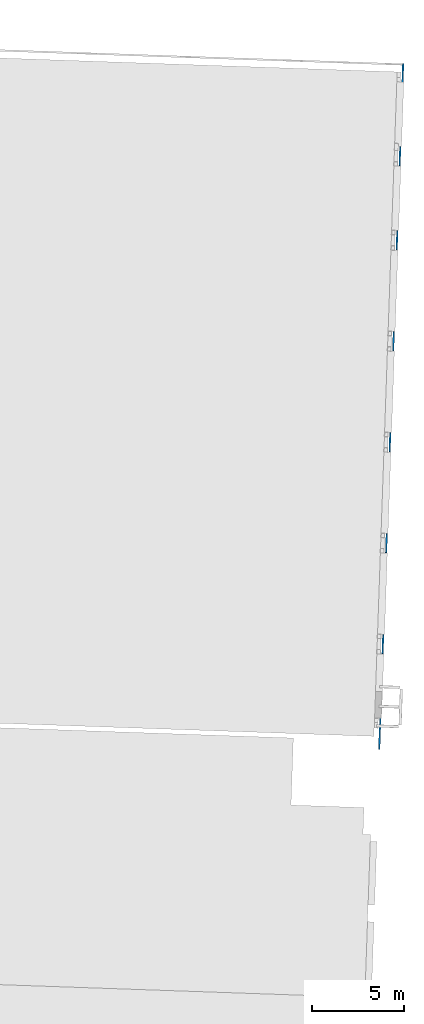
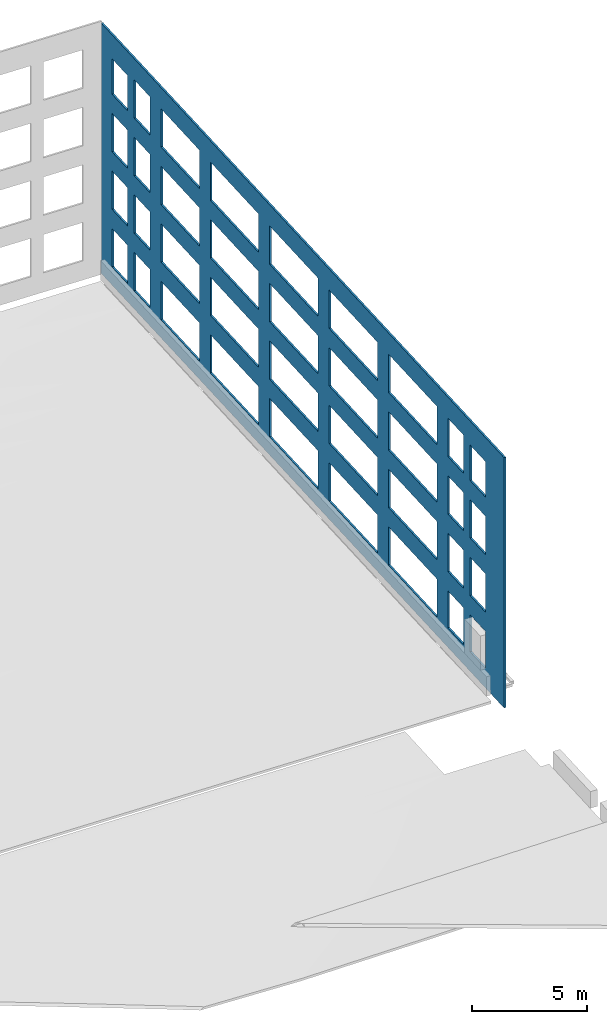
# One storey, part 4 of 7: 1 wall, 36 openings.
"""IFC2X3 building model written with IfcOpenShell, lengths in feet."""

from ifc_helpers import new_model, entity, si_unit, converted_unit, derived_unit, direction, frame, frame_2d, origin, origin_2d_with_axis, place, context, subcontext, project, spatial, rectangle, extrude, material, layer, layer_set, layer_usage, type_object, element, save


model = new_model("IFC2X3")

# Units and contexts
model_context = context("Model", 3, precision=0.0001, world=origin(), true_north=direction((0.999390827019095, 0.0348994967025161)))
body_context = subcontext(model_context, "Body", "Model", "MODEL_VIEW")
ifc_project = project(units=[converted_unit("LENGTHUNIT", "FOOT", entity("IfcRatioMeasure", 0.3048), si_unit("LENGTHUNIT", "METRE"), dimensions=[1, 0, 0, 0, 0, 0, 0]), converted_unit("AREAUNIT", "SQUARE FOOT", entity("IfcRatioMeasure", 0.09290304), si_unit("AREAUNIT", "SQUARE_METRE"), dimensions=[2, 0, 0, 0, 0, 0, 0]), converted_unit("VOLUMEUNIT", "CUBIC FOOT", entity("IfcRatioMeasure", 0.028316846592), si_unit("VOLUMEUNIT", "CUBIC_METRE"), dimensions=[3, 0, 0, 0, 0, 0, 0]), converted_unit("PLANEANGLEUNIT", "DEGREE", entity("IfcRatioMeasure", 0.0174532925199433), si_unit("PLANEANGLEUNIT", "RADIAN"), dimensions=[0, 0, 0, 0, 0, 0, 0]), si_unit("MASSUNIT", "GRAM", prefix="KILO"), si_unit("TIMEUNIT", "SECOND"), si_unit("FREQUENCYUNIT", "HERTZ"), si_unit("THERMODYNAMICTEMPERATUREUNIT", "DEGREE_CELSIUS"), derived_unit("THERMALTRANSMITTANCEUNIT", [(si_unit("MASSUNIT", "GRAM", prefix="KILO"), 1), (si_unit("THERMODYNAMICTEMPERATUREUNIT", "KELVIN"), -1), (si_unit("TIMEUNIT", "SECOND"), -3)]), derived_unit("VOLUMETRICFLOWRATEUNIT", [(si_unit("LENGTHUNIT", "METRE"), 3), (si_unit("TIMEUNIT", "SECOND"), -1)]), si_unit("ELECTRICCURRENTUNIT", "AMPERE"), si_unit("ELECTRICVOLTAGEUNIT", "VOLT"), si_unit("POWERUNIT", "WATT"), si_unit("FORCEUNIT", "NEWTON"), si_unit("ILLUMINANCEUNIT", "LUX"), si_unit("LUMINOUSFLUXUNIT", "LUMEN"), si_unit("LUMINOUSINTENSITYUNIT", "CANDELA"), derived_unit("USERDEFINED", [(si_unit("MASSUNIT", "GRAM", prefix="KILO"), -1), (si_unit("LENGTHUNIT", "METRE"), -2), (si_unit("TIMEUNIT", "SECOND"), 3), (si_unit("LUMINOUSFLUXUNIT", "LUMEN"), 1)]), derived_unit("LINEARVELOCITYUNIT", [(si_unit("LENGTHUNIT", "METRE"), 1), (si_unit("TIMEUNIT", "SECOND"), -1)]), si_unit("PRESSUREUNIT", "PASCAL"), derived_unit("USERDEFINED", [(si_unit("LENGTHUNIT", "METRE"), -2), (si_unit("MASSUNIT", "GRAM", prefix="KILO"), 1), (si_unit("TIMEUNIT", "SECOND"), -2)])], contexts=[model_context])

# Site, building, storey
site_placement = place(None, frame((892.518771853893, 322.38689265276, 0.00393700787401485), z_axis=(0.0, 0.0, 1.0), x_axis=(0.0348994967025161, 0.999390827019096, 0.0)))
site = spatial("IfcSite", under=ifc_project, at=site_placement, Name="Default", CompositionType="ELEMENT")
building_placement = place(site_placement, origin())
building = spatial("IfcBuilding", under=site, at=building_placement, CompositionType="ELEMENT")
storey_placement = place(building_placement, frame((0.0, 0.0, 567.0)))
storey = spatial("IfcBuildingStorey", under=building, at=storey_placement, Name="Existing Garage - 2nd Level", CompositionType="ELEMENT", Elevation=567.0)

# Wall, openings
ifc_material = material(Name="Masonry - Brick")
ifc_layer = layer(ifc_material, 0.302083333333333)
ifc_layer_set = layer_set([ifc_layer], Name="Basic Wall:(Existing) Exterior - Brick Veneer 3 5/8\"")
ifc_layer_usage = layer_usage(ifc_layer_set, "AXIS2", "POSITIVE", -0.151041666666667)
wall_type = type_object("IfcWallType", Name="Basic Wall:(Existing) Exterior - Brick Veneer 3 5/8\"", PredefinedType="STANDARD", material=ifc_layer_set)
wall_placement = place(storey_placement, frame((102.192918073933, 235.41499514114, 0.0)))
wall = element("IfcWallStandardCase", 1, at=wall_placement, inside=storey, type_object=wall_type, material=ifc_layer_usage, Name="Basic Wall:(Existing) Exterior - Brick Veneer 3 5/8\"", ObjectType="Basic Wall:(Existing) Exterior - Brick Veneer 3 5/8\"", context=body_context, shape_type="SweptSolid", body=[
    extrude(rectangle(XDim=122.234375, YDim=0.302083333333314, at=frame_2d((61.1171875, 3.70536934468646e-15), x_axis=(-1.0, 0.0))), origin(), (0.0, 0.0, 1.0), 43.5),
])
opening_1_placement = place(wall_placement, origin())
element("IfcOpeningElement", 2, at=opening_1_placement, cuts=wall, Name="Basic Wall:(Existing) Exterior - Brick Veneer 3 5/8\"", ObjectType="Opening", context=body_context, shape_type="SweptSolid", body=[
    extrude(rectangle(XDim=6.17000000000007, YDim=4.74999999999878, at=frame_2d((0.0, -1.4210854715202e-14), x_axis=(1.0, 0.0))), frame((116.526041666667, 0.151041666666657, 36.245), z_axis=(0.0, -1.0, 0.0), x_axis=(0.0, 0.0, 1.0)), (0.0, 0.0, 1.0), 0.302083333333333),
])
opening_2_placement = place(wall_placement, origin())
element("IfcOpeningElement", 3, at=opening_2_placement, cuts=wall, Name="Basic Wall:(Existing) Exterior - Brick Veneer 3 5/8\"", ObjectType="Opening", context=body_context, shape_type="SweptSolid", body=[
    extrude(rectangle(XDim=6.67000000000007, YDim=4.74999999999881, at=origin_2d_with_axis()), frame((109.776041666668, 0.151041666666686, 36.495), z_axis=(0.0, -1.0, 0.0), x_axis=(0.0, 0.0, 1.0)), (0.0, 0.0, 1.0), 0.302083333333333),
])
opening_3_placement = place(wall_placement, origin())
element("IfcOpeningElement", 4, at=opening_3_placement, cuts=wall, Name="Basic Wall:(Existing) Exterior - Brick Veneer 3 5/8\"", ObjectType="Opening", context=body_context, shape_type="SweptSolid", body=[
    extrude(rectangle(XDim=6.67000000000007, YDim=11.666666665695, at=frame_2d((0.0, -1.4210854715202e-14), x_axis=(1.0, 0.0))), frame((98.2343750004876, 0.151041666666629, 36.495), z_axis=(0.0, -1.0, 0.0), x_axis=(0.0, 0.0, -1.0)), (0.0, 0.0, 1.0), 0.302083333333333),
])
opening_4_placement = place(wall_placement, origin())
element("IfcOpeningElement", 5, at=opening_4_placement, cuts=wall, Name="Basic Wall:(Existing) Exterior - Brick Veneer 3 5/8\"", ObjectType="Opening", context=body_context, shape_type="SweptSolid", body=[
    extrude(rectangle(XDim=6.67000000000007, YDim=14.6666666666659, at=origin_2d_with_axis()), frame((81.7343750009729, 0.151041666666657, 36.495), z_axis=(0.0, -1.0, 0.0), x_axis=(0.0, 0.0, -1.0)), (0.0, 0.0, 1.0), 0.302083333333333),
])
opening_5_placement = place(wall_placement, origin())
element("IfcOpeningElement", 6, at=opening_5_placement, cuts=wall, Name="Basic Wall:(Existing) Exterior - Brick Veneer 3 5/8\"", ObjectType="Opening", context=body_context, shape_type="SweptSolid", body=[
    extrude(rectangle(XDim=6.67000000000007, YDim=14.6666666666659, at=origin_2d_with_axis()), frame((63.7343750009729, 0.151041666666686, 36.495), z_axis=(0.0, -1.0, 0.0), x_axis=(0.0, 0.0, -1.0)), (0.0, 0.0, 1.0), 0.302083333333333),
])
opening_6_placement = place(wall_placement, origin())
element("IfcOpeningElement", 7, at=opening_6_placement, cuts=wall, Name="Basic Wall:(Existing) Exterior - Brick Veneer 3 5/8\"", ObjectType="Opening", context=body_context, shape_type="SweptSolid", body=[
    extrude(rectangle(XDim=6.67000000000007, YDim=14.6666666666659, at=origin_2d_with_axis()), frame((45.7343750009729, 0.151041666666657, 36.495), z_axis=(0.0, -1.0, 0.0), x_axis=(0.0, 0.0, -1.0)), (0.0, 0.0, 1.0), 0.302083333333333),
])
opening_7_placement = place(wall_placement, origin())
element("IfcOpeningElement", 8, at=opening_7_placement, cuts=wall, Name="Basic Wall:(Existing) Exterior - Brick Veneer 3 5/8\"", ObjectType="Opening", context=body_context, shape_type="SweptSolid", body=[
    extrude(rectangle(XDim=6.67000000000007, YDim=14.6666666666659, at=origin_2d_with_axis()), frame((27.7343750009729, 0.151041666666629, 36.495), z_axis=(0.0, -1.0, 0.0), x_axis=(0.0, 0.0, -1.0)), (0.0, 0.0, 1.0), 0.302083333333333),
])
opening_8_placement = place(wall_placement, origin())
element("IfcOpeningElement", 9, at=opening_8_placement, cuts=wall, Name="Basic Wall:(Existing) Exterior - Brick Veneer 3 5/8\"", ObjectType="Opening", context=body_context, shape_type="SweptSolid", body=[
    extrude(rectangle(XDim=6.17000000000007, YDim=4.75093622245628, at=frame_2d((0.0, 7.105427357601e-15), x_axis=(1.0, 0.0))), frame((7.94130400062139, 0.151041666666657, 36.245), z_axis=(0.0, -1.0, 0.0), x_axis=(0.0, 0.0, -1.0)), (0.0, 0.0, 1.0), 0.302083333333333),
])
opening_9_placement = place(wall_placement, origin())
element("IfcOpeningElement", 10, at=opening_9_placement, cuts=wall, Name="Basic Wall:(Existing) Exterior - Brick Veneer 3 5/8\"", ObjectType="Opening", context=body_context, shape_type="SweptSolid", body=[
    extrude(rectangle(XDim=6.67000000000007, YDim=4.75093622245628, at=frame_2d((7.105427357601e-15, 0.0), x_axis=(0.0, 1.0))), frame((14.6922402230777, 0.151041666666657, 36.495), z_axis=(0.0, -1.0, 0.0), x_axis=(-1.0, 0.0, 0.0)), (0.0, 0.0, 1.0), 0.302083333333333),
])
opening_10_placement = place(wall_placement, origin())
element("IfcOpeningElement", 11, at=opening_10_placement, cuts=wall, Name="Basic Wall:(Existing) Exterior - Brick Veneer 3 5/8\"", ObjectType="Opening", context=body_context, shape_type="SweptSolid", body=[
    extrude(rectangle(XDim=6.67000000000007, YDim=4.74999999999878, at=frame_2d((0.0, -1.4210854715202e-14), x_axis=(1.0, 0.0))), frame((116.526041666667, 0.151041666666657, 26.495), z_axis=(0.0, -1.0, 0.0), x_axis=(0.0, 0.0, 1.0)), (0.0, 0.0, 1.0), 0.302083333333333),
])
opening_11_placement = place(wall_placement, origin())
element("IfcOpeningElement", 12, at=opening_11_placement, cuts=wall, Name="Basic Wall:(Existing) Exterior - Brick Veneer 3 5/8\"", ObjectType="Opening", context=body_context, shape_type="SweptSolid", body=[
    extrude(rectangle(XDim=6.67000000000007, YDim=4.74999999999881, at=origin_2d_with_axis()), frame((109.776041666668, 0.151041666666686, 26.495), z_axis=(0.0, -1.0, 0.0), x_axis=(0.0, 0.0, 1.0)), (0.0, 0.0, 1.0), 0.302083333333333),
])
opening_12_placement = place(wall_placement, origin())
element("IfcOpeningElement", 13, at=opening_12_placement, cuts=wall, Name="Basic Wall:(Existing) Exterior - Brick Veneer 3 5/8\"", ObjectType="Opening", context=body_context, shape_type="SweptSolid", body=[
    extrude(rectangle(XDim=6.67000000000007, YDim=11.666666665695, at=frame_2d((0.0, -1.4210854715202e-14), x_axis=(1.0, 0.0))), frame((98.2343750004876, 0.151041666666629, 26.495), z_axis=(0.0, -1.0, 0.0), x_axis=(0.0, 0.0, -1.0)), (0.0, 0.0, 1.0), 0.302083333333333),
])
opening_13_placement = place(wall_placement, origin())
element("IfcOpeningElement", 14, at=opening_13_placement, cuts=wall, Name="Basic Wall:(Existing) Exterior - Brick Veneer 3 5/8\"", ObjectType="Opening", context=body_context, shape_type="SweptSolid", body=[
    extrude(rectangle(XDim=6.67000000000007, YDim=14.6666666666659, at=origin_2d_with_axis()), frame((81.7343750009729, 0.151041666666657, 26.495), z_axis=(0.0, -1.0, 0.0), x_axis=(0.0, 0.0, -1.0)), (0.0, 0.0, 1.0), 0.302083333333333),
])
opening_14_placement = place(wall_placement, origin())
element("IfcOpeningElement", 15, at=opening_14_placement, cuts=wall, Name="Basic Wall:(Existing) Exterior - Brick Veneer 3 5/8\"", ObjectType="Opening", context=body_context, shape_type="SweptSolid", body=[
    extrude(rectangle(XDim=6.67000000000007, YDim=14.6666666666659, at=origin_2d_with_axis()), frame((63.7343750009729, 0.151041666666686, 26.495), z_axis=(0.0, -1.0, 0.0), x_axis=(0.0, 0.0, -1.0)), (0.0, 0.0, 1.0), 0.302083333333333),
])
opening_15_placement = place(wall_placement, origin())
element("IfcOpeningElement", 16, at=opening_15_placement, cuts=wall, Name="Basic Wall:(Existing) Exterior - Brick Veneer 3 5/8\"", ObjectType="Opening", context=body_context, shape_type="SweptSolid", body=[
    extrude(rectangle(XDim=6.67000000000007, YDim=14.6666666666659, at=origin_2d_with_axis()), frame((45.7343750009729, 0.151041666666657, 26.495), z_axis=(0.0, -1.0, 0.0), x_axis=(0.0, 0.0, -1.0)), (0.0, 0.0, 1.0), 0.302083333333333),
])
opening_16_placement = place(wall_placement, origin())
element("IfcOpeningElement", 17, at=opening_16_placement, cuts=wall, Name="Basic Wall:(Existing) Exterior - Brick Veneer 3 5/8\"", ObjectType="Opening", context=body_context, shape_type="SweptSolid", body=[
    extrude(rectangle(XDim=6.67000000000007, YDim=14.6666666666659, at=origin_2d_with_axis()), frame((27.7343750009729, 0.151041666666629, 26.495), z_axis=(0.0, -1.0, 0.0), x_axis=(0.0, 0.0, -1.0)), (0.0, 0.0, 1.0), 0.302083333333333),
])
opening_17_placement = place(wall_placement, origin())
element("IfcOpeningElement", 18, at=opening_17_placement, cuts=wall, Name="Basic Wall:(Existing) Exterior - Brick Veneer 3 5/8\"", ObjectType="Opening", context=body_context, shape_type="SweptSolid", body=[
    extrude(rectangle(XDim=6.67000000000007, YDim=4.75093622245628, at=frame_2d((0.0, 7.105427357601e-15), x_axis=(1.0, 0.0))), frame((7.94130400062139, 0.151041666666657, 26.495), z_axis=(0.0, -1.0, 0.0), x_axis=(0.0, 0.0, -1.0)), (0.0, 0.0, 1.0), 0.302083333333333),
])
opening_18_placement = place(wall_placement, origin())
element("IfcOpeningElement", 19, at=opening_18_placement, cuts=wall, Name="Basic Wall:(Existing) Exterior - Brick Veneer 3 5/8\"", ObjectType="Opening", context=body_context, shape_type="SweptSolid", body=[
    extrude(rectangle(XDim=6.67000000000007, YDim=4.75093622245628, at=frame_2d((7.105427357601e-15, 0.0), x_axis=(0.0, 1.0))), frame((14.6922402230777, 0.151041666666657, 26.495), z_axis=(0.0, -1.0, 0.0), x_axis=(-1.0, 0.0, 0.0)), (0.0, 0.0, 1.0), 0.302083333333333),
])
opening_19_placement = place(wall_placement, origin())
element("IfcOpeningElement", 20, at=opening_19_placement, cuts=wall, Name="Basic Wall:(Existing) Exterior - Brick Veneer 3 5/8\"", ObjectType="Opening", context=body_context, shape_type="SweptSolid", body=[
    extrude(rectangle(XDim=6.67000000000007, YDim=4.74999999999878, at=frame_2d((0.0, 1.4210854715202e-14), x_axis=(1.0, 0.0))), frame((116.526041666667, 0.151041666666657, 16.495), z_axis=(0.0, -1.0, 0.0), x_axis=(0.0, 0.0, 1.0)), (0.0, 0.0, 1.0), 0.302083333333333),
])
opening_20_placement = place(wall_placement, origin())
element("IfcOpeningElement", 21, at=opening_20_placement, cuts=wall, Name="Basic Wall:(Existing) Exterior - Brick Veneer 3 5/8\"", ObjectType="Opening", context=body_context, shape_type="SweptSolid", body=[
    extrude(rectangle(XDim=6.67000000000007, YDim=4.74999999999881, at=origin_2d_with_axis()), frame((109.776041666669, 0.151041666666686, 16.495), z_axis=(0.0, -1.0, 0.0), x_axis=(0.0, 0.0, 1.0)), (0.0, 0.0, 1.0), 0.302083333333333),
])
opening_21_placement = place(wall_placement, origin())
element("IfcOpeningElement", 22, at=opening_21_placement, cuts=wall, Name="Basic Wall:(Existing) Exterior - Brick Veneer 3 5/8\"", ObjectType="Opening", context=body_context, shape_type="SweptSolid", body=[
    extrude(rectangle(XDim=6.67000000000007, YDim=11.666666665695, at=frame_2d((0.0, 1.4210854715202e-14), x_axis=(1.0, 0.0))), frame((98.2343750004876, 0.151041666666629, 16.495), z_axis=(0.0, -1.0, 0.0), x_axis=(0.0, 0.0, -1.0)), (0.0, 0.0, 1.0), 0.302083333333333),
])
opening_22_placement = place(wall_placement, origin())
element("IfcOpeningElement", 23, at=opening_22_placement, cuts=wall, Name="Basic Wall:(Existing) Exterior - Brick Veneer 3 5/8\"", ObjectType="Opening", context=body_context, shape_type="SweptSolid", body=[
    extrude(rectangle(XDim=6.67000000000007, YDim=14.6666666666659, at=origin_2d_with_axis()), frame((81.7343750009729, 0.151041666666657, 16.495), z_axis=(0.0, -1.0, 0.0), x_axis=(0.0, 0.0, -1.0)), (0.0, 0.0, 1.0), 0.302083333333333),
])
opening_23_placement = place(wall_placement, origin())
element("IfcOpeningElement", 24, at=opening_23_placement, cuts=wall, Name="Basic Wall:(Existing) Exterior - Brick Veneer 3 5/8\"", ObjectType="Opening", context=body_context, shape_type="SweptSolid", body=[
    extrude(rectangle(XDim=6.67000000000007, YDim=14.6666666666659, at=origin_2d_with_axis()), frame((63.7343750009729, 0.151041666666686, 16.495), z_axis=(0.0, -1.0, 0.0), x_axis=(0.0, 0.0, -1.0)), (0.0, 0.0, 1.0), 0.302083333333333),
])
opening_24_placement = place(wall_placement, origin())
element("IfcOpeningElement", 25, at=opening_24_placement, cuts=wall, Name="Basic Wall:(Existing) Exterior - Brick Veneer 3 5/8\"", ObjectType="Opening", context=body_context, shape_type="SweptSolid", body=[
    extrude(rectangle(XDim=6.67000000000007, YDim=14.6666666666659, at=origin_2d_with_axis()), frame((45.7343750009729, 0.151041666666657, 16.495), z_axis=(0.0, -1.0, 0.0), x_axis=(0.0, 0.0, -1.0)), (0.0, 0.0, 1.0), 0.302083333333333),
])
opening_25_placement = place(wall_placement, origin())
element("IfcOpeningElement", 26, at=opening_25_placement, cuts=wall, Name="Basic Wall:(Existing) Exterior - Brick Veneer 3 5/8\"", ObjectType="Opening", context=body_context, shape_type="SweptSolid", body=[
    extrude(rectangle(XDim=6.67000000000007, YDim=14.6666666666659, at=origin_2d_with_axis()), frame((27.7343750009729, 0.151041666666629, 16.495), z_axis=(0.0, -1.0, 0.0), x_axis=(0.0, 0.0, -1.0)), (0.0, 0.0, 1.0), 0.302083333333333),
])
opening_26_placement = place(wall_placement, origin())
element("IfcOpeningElement", 27, at=opening_26_placement, cuts=wall, Name="Basic Wall:(Existing) Exterior - Brick Veneer 3 5/8\"", ObjectType="Opening", context=body_context, shape_type="SweptSolid", body=[
    extrude(rectangle(XDim=6.67000000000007, YDim=4.75093622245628, at=frame_2d((0.0, -7.105427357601e-15), x_axis=(1.0, 0.0))), frame((7.94130400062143, 0.151041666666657, 16.495), z_axis=(0.0, -1.0, 0.0), x_axis=(0.0, 0.0, -1.0)), (0.0, 0.0, 1.0), 0.302083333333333),
])
opening_27_placement = place(wall_placement, origin())
element("IfcOpeningElement", 28, at=opening_27_placement, cuts=wall, Name="Basic Wall:(Existing) Exterior - Brick Veneer 3 5/8\"", ObjectType="Opening", context=body_context, shape_type="SweptSolid", body=[
    extrude(rectangle(XDim=6.67000000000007, YDim=4.75093622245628, at=frame_2d((7.105427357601e-15, 0.0), x_axis=(0.0, 1.0))), frame((14.6922402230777, 0.151041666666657, 16.495), z_axis=(0.0, -1.0, 0.0), x_axis=(-1.0, 0.0, 0.0)), (0.0, 0.0, 1.0), 0.302083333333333),
])
opening_28_placement = place(wall_placement, origin())
element("IfcOpeningElement", 29, at=opening_28_placement, cuts=wall, Name="Basic Wall:(Existing) Exterior - Brick Veneer 3 5/8\"", ObjectType="Opening", context=body_context, shape_type="SweptSolid", body=[
    extrude(rectangle(XDim=6.67000000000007, YDim=4.74999999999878, at=frame_2d((0.0, 1.4210854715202e-14), x_axis=(1.0, 0.0))), frame((116.526041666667, 0.151041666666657, 6.495), z_axis=(0.0, -1.0, 0.0), x_axis=(0.0, 0.0, 1.0)), (0.0, 0.0, 1.0), 0.302083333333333),
])
opening_29_placement = place(wall_placement, origin())
element("IfcOpeningElement", 30, at=opening_29_placement, cuts=wall, Name="Basic Wall:(Existing) Exterior - Brick Veneer 3 5/8\"", ObjectType="Opening", context=body_context, shape_type="SweptSolid", body=[
    extrude(rectangle(XDim=6.67000000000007, YDim=4.74999999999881, at=frame_2d((0.0, 2.8421709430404e-14), x_axis=(1.0, 0.0))), frame((109.776041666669, 0.151041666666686, 6.495), z_axis=(0.0, -1.0, 0.0), x_axis=(0.0, 0.0, 1.0)), (0.0, 0.0, 1.0), 0.302083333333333),
])
opening_30_placement = place(wall_placement, origin())
element("IfcOpeningElement", 31, at=opening_30_placement, cuts=wall, Name="Basic Wall:(Existing) Exterior - Brick Veneer 3 5/8\"", ObjectType="Opening", context=body_context, shape_type="SweptSolid", body=[
    extrude(rectangle(XDim=6.67000000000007, YDim=11.666666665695, at=frame_2d((0.0, -1.4210854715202e-14), x_axis=(1.0, 0.0))), frame((98.2343750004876, 0.151041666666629, 6.495), z_axis=(0.0, -1.0, 0.0), x_axis=(0.0, 0.0, -1.0)), (0.0, 0.0, 1.0), 0.302083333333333),
])
opening_31_placement = place(wall_placement, origin())
element("IfcOpeningElement", 32, at=opening_31_placement, cuts=wall, Name="Basic Wall:(Existing) Exterior - Brick Veneer 3 5/8\"", ObjectType="Opening", context=body_context, shape_type="SweptSolid", body=[
    extrude(rectangle(XDim=6.67000000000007, YDim=14.6666666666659, at=origin_2d_with_axis()), frame((81.7343750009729, 0.151041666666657, 6.495), z_axis=(0.0, -1.0, 0.0), x_axis=(0.0, 0.0, -1.0)), (0.0, 0.0, 1.0), 0.302083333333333),
])
opening_32_placement = place(wall_placement, origin())
element("IfcOpeningElement", 33, at=opening_32_placement, cuts=wall, Name="Basic Wall:(Existing) Exterior - Brick Veneer 3 5/8\"", ObjectType="Opening", context=body_context, shape_type="SweptSolid", body=[
    extrude(rectangle(XDim=6.67000000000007, YDim=14.6666666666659, at=origin_2d_with_axis()), frame((63.7343750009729, 0.151041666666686, 6.495), z_axis=(0.0, -1.0, 0.0), x_axis=(0.0, 0.0, -1.0)), (0.0, 0.0, 1.0), 0.302083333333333),
])
opening_33_placement = place(wall_placement, origin())
element("IfcOpeningElement", 34, at=opening_33_placement, cuts=wall, Name="Basic Wall:(Existing) Exterior - Brick Veneer 3 5/8\"", ObjectType="Opening", context=body_context, shape_type="SweptSolid", body=[
    extrude(rectangle(XDim=6.67000000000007, YDim=14.6666666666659, at=origin_2d_with_axis()), frame((45.7343750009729, 0.151041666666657, 6.495), z_axis=(0.0, -1.0, 0.0), x_axis=(0.0, 0.0, -1.0)), (0.0, 0.0, 1.0), 0.302083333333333),
])
opening_34_placement = place(wall_placement, origin())
element("IfcOpeningElement", 35, at=opening_34_placement, cuts=wall, Name="Basic Wall:(Existing) Exterior - Brick Veneer 3 5/8\"", ObjectType="Opening", context=body_context, shape_type="SweptSolid", body=[
    extrude(rectangle(XDim=6.67000000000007, YDim=14.6666666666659, at=origin_2d_with_axis()), frame((27.734375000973, 0.151041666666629, 6.495), z_axis=(0.0, -1.0, 0.0), x_axis=(0.0, 0.0, -1.0)), (0.0, 0.0, 1.0), 0.302083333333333),
])
opening_35_placement = place(wall_placement, origin())
element("IfcOpeningElement", 36, at=opening_35_placement, cuts=wall, Name="Basic Wall:(Existing) Exterior - Brick Veneer 3 5/8\"", ObjectType="Opening", context=body_context, shape_type="SweptSolid", body=[
    extrude(rectangle(XDim=6.45000000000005, YDim=4.75093622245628, at=frame_2d((0.0, 1.4210854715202e-14), x_axis=(1.0, 0.0))), frame((7.94130400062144, 0.151041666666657, 6.60500000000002), z_axis=(0.0, -1.0, 0.0), x_axis=(0.0, 0.0, -1.0)), (0.0, 0.0, 1.0), 0.302083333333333),
])
opening_36_placement = place(wall_placement, origin())
element("IfcOpeningElement", 37, at=opening_36_placement, cuts=wall, Name="Basic Wall:(Existing) Exterior - Brick Veneer 3 5/8\"", ObjectType="Opening", context=body_context, shape_type="SweptSolid", body=[
    extrude(rectangle(XDim=6.45000000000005, YDim=4.75093622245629, at=frame_2d((-7.105427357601e-15, 0.0), x_axis=(0.0, 1.0))), frame((14.6922402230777, 0.151041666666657, 6.60500000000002), z_axis=(0.0, -1.0, 0.0), x_axis=(-1.0, 0.0, 0.0)), (0.0, 0.0, 1.0), 0.302083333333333),
])

save(model, "model.ifc")
